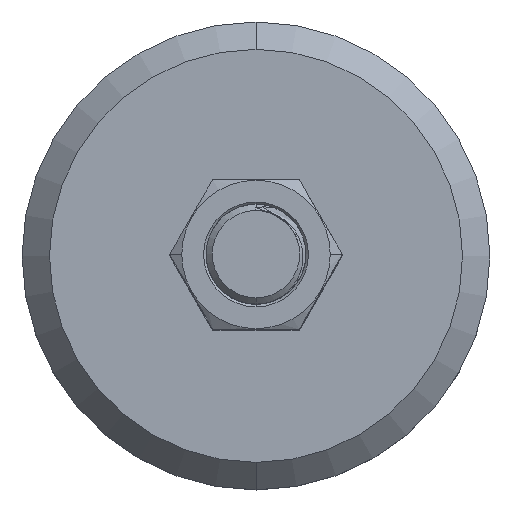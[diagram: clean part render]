
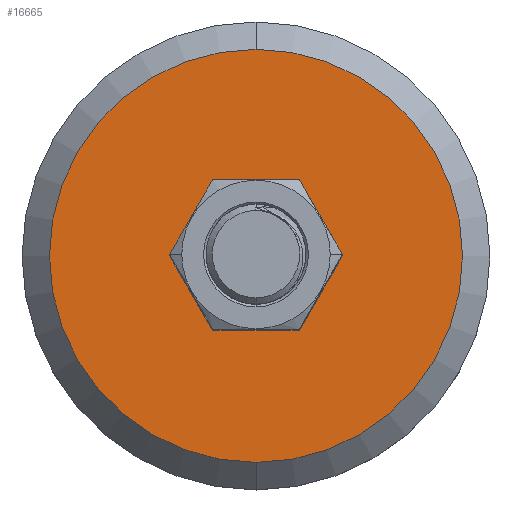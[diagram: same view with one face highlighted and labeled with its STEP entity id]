
A CAD part, top view. The second image highlights one B-rep face of the part: STEP entity #16665.
In plain terms, the highlighted planar face has unit normal (0, 0, 1).
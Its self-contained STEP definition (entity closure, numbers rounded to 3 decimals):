
#252 = VERTEX_POINT ( 'NONE', #9790 ) ;
#312 = FACE_BOUND ( 'NONE', #7606, .T. ) ;
#505 = DIRECTION ( 'NONE',  ( 1., 0., 0. ) ) ;
#1655 = CARTESIAN_POINT ( 'NONE',  ( 0., 0., 15. ) ) ;
#2692 = CIRCLE ( 'NONE', #4768, 33.107 ) ;
#2938 = EDGE_CURVE ( 'NONE', #252, #7562, #6049, .T. ) ;
#2951 = DIRECTION ( 'NONE',  ( 1., 0., 0. ) ) ;
#3203 = DIRECTION ( 'NONE',  ( 0., 0., 1. ) ) ;
#3496 = EDGE_LOOP ( 'NONE', ( #5011, #16597 ) ) ;
#4314 = CARTESIAN_POINT ( 'NONE',  ( 0., 0., 15. ) ) ;
#4482 = ORIENTED_EDGE ( 'NONE', *, *, #5303, .T. ) ;
#4768 = AXIS2_PLACEMENT_3D ( 'NONE', #1655, #10725, #2951 ) ;
#5011 = ORIENTED_EDGE ( 'NONE', *, *, #6521, .T. ) ;
#5259 = VERTEX_POINT ( 'NONE', #7160 ) ;
#5303 = EDGE_CURVE ( 'NONE', #7562, #252, #6489, .T. ) ;
#5613 = DIRECTION ( 'NONE',  ( 1., 0., 0. ) ) ;
#6049 = CIRCLE ( 'NONE', #14899, 11.5 ) ;
#6489 = CIRCLE ( 'NONE', #14699, 11.5 ) ;
#6521 = EDGE_CURVE ( 'NONE', #5259, #14220, #2692, .T. ) ;
#7160 = CARTESIAN_POINT ( 'NONE',  ( 0., 33.107, 15. ) ) ;
#7280 = DIRECTION ( 'NONE',  ( 0., 0., -1. ) ) ;
#7562 = VERTEX_POINT ( 'NONE', #16347 ) ;
#7606 = EDGE_LOOP ( 'NONE', ( #8662, #4482 ) ) ;
#8282 = DIRECTION ( 'NONE',  ( 0., 0., -1. ) ) ;
#8662 = ORIENTED_EDGE ( 'NONE', *, *, #2938, .T. ) ;
#9572 = CARTESIAN_POINT ( 'NONE',  ( -22.77, -22.77, 15. ) ) ;
#9790 = CARTESIAN_POINT ( 'NONE',  ( 11.5, 0., 15. ) ) ;
#10725 = DIRECTION ( 'NONE',  ( 0., 0., 1. ) ) ;
#10832 = AXIS2_PLACEMENT_3D ( 'NONE', #9572, #3203, #12281 ) ;
#11959 = CIRCLE ( 'NONE', #16729, 33.107 ) ;
#12281 = DIRECTION ( 'NONE',  ( 1., 0., 0. ) ) ;
#13365 = DIRECTION ( 'NONE',  ( 0., 0., 1. ) ) ;
#14071 = FACE_OUTER_BOUND ( 'NONE', #3496, .T. ) ;
#14220 = VERTEX_POINT ( 'NONE', #14448 ) ;
#14448 = CARTESIAN_POINT ( 'NONE',  ( 0., -33.107, 15. ) ) ;
#14699 = AXIS2_PLACEMENT_3D ( 'NONE', #14995, #7280, #16309 ) ;
#14839 = EDGE_CURVE ( 'NONE', #14220, #5259, #11959, .T. ) ;
#14899 = AXIS2_PLACEMENT_3D ( 'NONE', #15978, #8282, #505 ) ;
#14995 = CARTESIAN_POINT ( 'NONE',  ( 0., 0., 15. ) ) ;
#15978 = CARTESIAN_POINT ( 'NONE',  ( 0., 0., 15. ) ) ;
#16097 = PLANE ( 'NONE',  #10832 ) ;
#16309 = DIRECTION ( 'NONE',  ( 1., 0., 0. ) ) ;
#16347 = CARTESIAN_POINT ( 'NONE',  ( -11.5, 0., 15. ) ) ;
#16597 = ORIENTED_EDGE ( 'NONE', *, *, #14839, .T. ) ;
#16665 = ADVANCED_FACE ( 'NONE', ( #312, #14071 ), #16097, .T. ) ;
#16729 = AXIS2_PLACEMENT_3D ( 'NONE', #4314, #13365, #5613 ) ;
